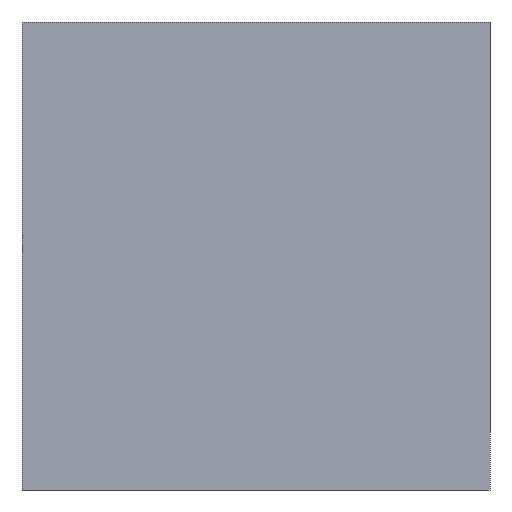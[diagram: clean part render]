
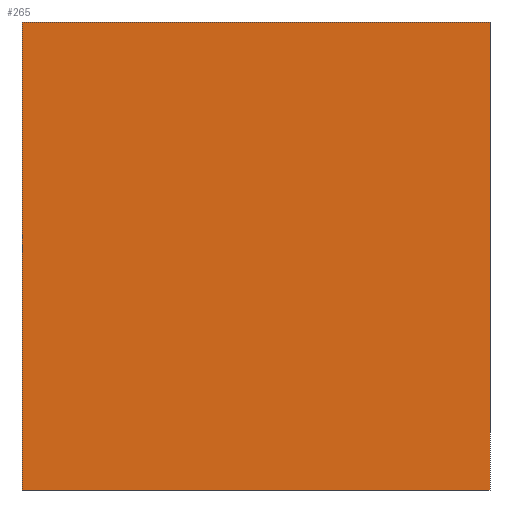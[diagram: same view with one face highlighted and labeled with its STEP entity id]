
A CAD part, left-side view. The second image highlights one B-rep face of the part: STEP entity #265.
In plain terms, the highlighted planar face has unit normal (-1, 0, 0).
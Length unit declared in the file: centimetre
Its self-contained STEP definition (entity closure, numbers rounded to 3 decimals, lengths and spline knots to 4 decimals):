
#5 = LINE ( 'NONE', #26, #335 ) ;
#15 = VERTEX_POINT ( 'NONE', #385 ) ;
#26 = CARTESIAN_POINT ( 'NONE',  ( 0., 1000., 0. ) ) ;
#35 = DIRECTION ( 'NONE',  ( 0., -1., 0. ) ) ;
#87 = CARTESIAN_POINT ( 'NONE',  ( 0., 1000., 1000. ) ) ;
#94 = VECTOR ( 'NONE', #35, 100. ) ;
#107 = VECTOR ( 'NONE', #224, 100. ) ;
#136 = AXIS2_PLACEMENT_3D ( 'NONE', #87, #144, #211 ) ;
#142 = DIRECTION ( 'NONE',  ( 0., -1., 0. ) ) ;
#144 = DIRECTION ( 'NONE',  ( 1., 0., 0. ) ) ;
#145 = LINE ( 'NONE', #323, #94 ) ;
#178 = CARTESIAN_POINT ( 'NONE',  ( 0., 1000., 1000. ) ) ;
#180 = DIRECTION ( 'NONE',  ( 0., 0., -1. ) ) ;
#181 = VERTEX_POINT ( 'NONE', #178 ) ;
#188 = ORIENTED_EDGE ( 'NONE', *, *, #309, .F. ) ;
#211 = DIRECTION ( 'NONE',  ( 0., 0., -1. ) ) ;
#212 = VERTEX_POINT ( 'NONE', #404 ) ;
#214 = CARTESIAN_POINT ( 'NONE',  ( 0., 0., 1000. ) ) ;
#224 = DIRECTION ( 'NONE',  ( 0., 0., -1. ) ) ;
#231 = VECTOR ( 'NONE', #180, 100. ) ;
#243 = EDGE_CURVE ( 'NONE', #181, #15, #145, .T. ) ;
#248 = ORIENTED_EDGE ( 'NONE', *, *, #243, .F. ) ;
#250 = VERTEX_POINT ( 'NONE', #286 ) ;
#254 = EDGE_CURVE ( 'NONE', #212, #250, #5, .T. ) ;
#255 = ORIENTED_EDGE ( 'NONE', *, *, #347, .T. ) ;
#265 = ADVANCED_FACE ( 'NONE', ( #403 ), #373, .F. ) ;
#286 = CARTESIAN_POINT ( 'NONE',  ( 0., 0., 0. ) ) ;
#297 = EDGE_LOOP ( 'NONE', ( #377, #188, #248, #255 ) ) ;
#309 = EDGE_CURVE ( 'NONE', #15, #250, #310, .T. ) ;
#310 = LINE ( 'NONE', #214, #231 ) ;
#322 = CARTESIAN_POINT ( 'NONE',  ( 0., 1000., 1000. ) ) ;
#323 = CARTESIAN_POINT ( 'NONE',  ( 0., 1000., 1000. ) ) ;
#335 = VECTOR ( 'NONE', #142, 100. ) ;
#347 = EDGE_CURVE ( 'NONE', #181, #212, #388, .T. ) ;
#373 = PLANE ( 'NONE',  #136 ) ;
#377 = ORIENTED_EDGE ( 'NONE', *, *, #254, .T. ) ;
#385 = CARTESIAN_POINT ( 'NONE',  ( 0., 0., 1000. ) ) ;
#388 = LINE ( 'NONE', #322, #107 ) ;
#403 = FACE_OUTER_BOUND ( 'NONE', #297, .T. ) ;
#404 = CARTESIAN_POINT ( 'NONE',  ( 0., 1000., 0. ) ) ;
